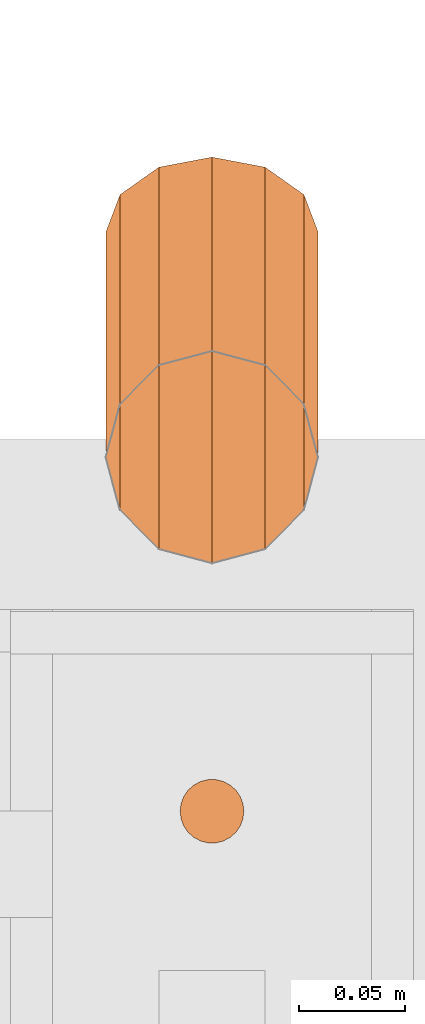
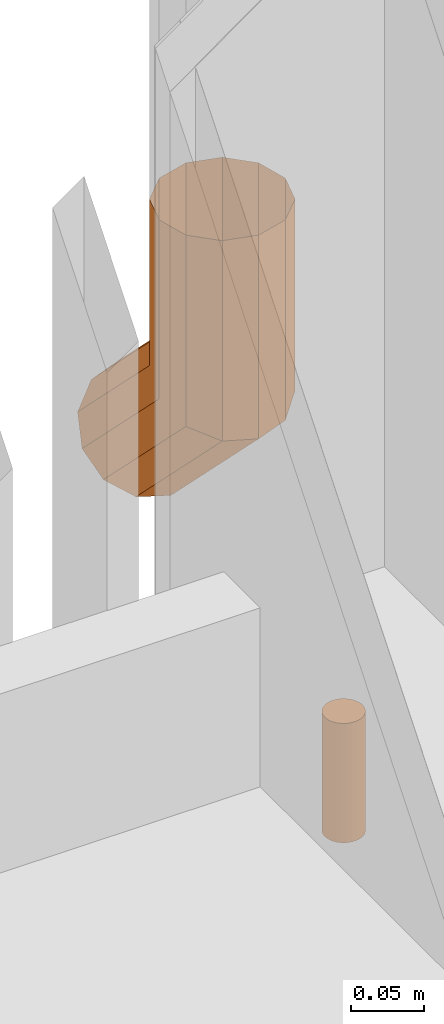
# One storey, part 376 of 418: 2 proxies.
"""IFC2X3 building model written with IfcOpenShell, lengths in millimetres."""

import ifcopenshell
import ifcopenshell.guid

model = None  # the IFC model being written
_history = None  # IfcOwnerHistory: only IFC2X3 demands one
_inside = {}  # id of a spatial element -> (the spatial element, [elements in it])
_under = {}  # id of a project, library or spatial element -> (it, [spatial elements below it])
_declared = {}  # id of a project -> (the project, [libraries it declares])
_typed = {}  # id of a type object -> (the type object, [elements of that type])
_made_of = {}  # id of a material, layer set ... -> (it, [elements and type objects made of it])


def new_model(schema):
    """Start an empty IFC model of exactly this schema.

    Asked for "IFC4X3", IfcOpenShell would pick the latest addendum, in which some entities
    have other attributes; the version numbers below select the first issue.
    IFC2X3 requires an IfcOwnerHistory on every rooted entity: one is made here for all.
    """
    global model, _history
    if schema == "IFC4X3":
        model = ifcopenshell.file(schema_version=(4, 3, 0, 0))
    else:
        model = ifcopenshell.file(schema=schema)
    _inside.clear()
    _under.clear()
    _declared.clear()
    _typed.clear()
    _made_of.clear()
    _history = None
    if model.schema == "IFC2X3":
        org = make("IfcOrganization", Name="unknown")
        user = make(
            "IfcPersonAndOrganization",
            ThePerson=make("IfcPerson", FamilyName="unknown"),
            TheOrganization=org,
        )
        app = make(
            "IfcApplication",
            ApplicationDeveloper=org,
            Version="unknown",
            ApplicationFullName="unknown",
            ApplicationIdentifier="unknown",
        )
        _history = make(
            "IfcOwnerHistory",
            OwningUser=user,
            OwningApplication=app,
            ChangeAction="ADDED",
            CreationDate=0,
        )
    return model


def make(cls, **values):
    """One entity of the class cls with the attributes given. An attribute that is None is left unset."""
    return model.create_entity(
        cls, **{name: value for name, value in values.items() if value is not None}
    )


def entity(cls, *values):
    """Any entity or typed value of the class cls, its attributes in the order of the schema. None: left unset."""
    e = model.create_entity(cls)
    for i, value in enumerate(values):
        if value is not None:
            e[i] = value
    return e


def rooted(cls, **values):
    """An entity with a GlobalId (a new one), such as an element, a storey or a relation."""
    return make(cls, GlobalId=ifcopenshell.guid.new(), OwnerHistory=_history, **values)


def si_unit(unit_type, name, prefix=None):
    """IfcSIUnit, for example si_unit("LENGTHUNIT", "METRE", prefix="MILLI")."""
    return make("IfcSIUnit", UnitType=unit_type, Prefix=prefix, Name=name)


def converted_unit(unit_type, name, factor, base, dimensions=None, offset=None):
    """IfcConversionBasedUnit, such as the inch: factor (a typed value) times the base unit."""
    return make(
        "IfcConversionBasedUnit"
        if offset is None
        else "IfcConversionBasedUnitWithOffset",
        ConversionOffset=offset,
        Dimensions=None
        if dimensions is None
        else entity("IfcDimensionalExponents", *dimensions),
        UnitType=unit_type,
        Name=name,
        ConversionFactor=make(
            "IfcMeasureWithUnit", ValueComponent=factor, UnitComponent=base
        ),
    )


def derived_unit(unit_type, elements):
    """IfcDerivedUnit: a product of units, each with its exponent."""
    return make(
        "IfcDerivedUnit",
        Elements=[
            make("IfcDerivedUnitElement", Unit=unit, Exponent=power)
            for unit, power in elements
        ],
        UnitType=unit_type,
    )


def money_unit(currency):
    """IfcMonetaryUnit."""
    return make("IfcMonetaryUnit", Currency=currency)


def assignment(units):
    """IfcUnitAssignment: the units of a project."""
    return None if units is None else make("IfcUnitAssignment", Units=units)


def point(xyz):
    """IfcCartesianPoint."""
    return None if xyz is None else make("IfcCartesianPoint", Coordinates=xyz)


def direction(xyz):
    """IfcDirection."""
    return None if xyz is None else make("IfcDirection", DirectionRatios=xyz)


def frame(location, z_axis=None, x_axis=None):
    """IfcAxis2Placement3D, a coordinate frame: its origin and axes. An axis left out is left unset."""
    return make(
        "IfcAxis2Placement3D",
        Location=point(location),
        Axis=direction(z_axis),
        RefDirection=direction(x_axis),
    )


def frame_2d(location, x_axis=None):
    """IfcAxis2Placement2D, a coordinate frame in the plane: its origin and x axis."""
    return make(
        "IfcAxis2Placement2D", Location=point(location), RefDirection=direction(x_axis)
    )


def origin_with_axes():
    """The frame at (0, 0, 0) with the z axis (0, 0, 1) and the x axis (1, 0, 0) written out."""
    return frame((0.0, 0.0, 0.0), z_axis=(0.0, 0.0, 1.0), x_axis=(1.0, 0.0, 0.0))


def origin_2d_with_axis():
    """The frame at (0, 0) in the plane with the x axis (1, 0) written out."""
    return frame_2d((0.0, 0.0), x_axis=(1.0, 0.0))


def place(relative_to, where):
    """IfcLocalPlacement: puts the frame where relative to a parent placement (None: the world)."""
    return make(
        "IfcLocalPlacement", PlacementRelTo=relative_to, RelativePlacement=where
    )


def context(
    kind, dimensions, precision=None, world=None, true_north=None, identifier=None
):
    """IfcGeometricRepresentationContext, for example the 3D "Model" context."""
    return make(
        "IfcGeometricRepresentationContext",
        ContextIdentifier=identifier,
        ContextType=kind,
        CoordinateSpaceDimension=dimensions,
        Precision=precision,
        WorldCoordinateSystem=world,
        TrueNorth=true_north,
    )


def subcontext(parent, identifier, kind, view, scale=None):
    """IfcGeometricRepresentationSubContext, for example "Body" below "Model"."""
    return make(
        "IfcGeometricRepresentationSubContext",
        ContextIdentifier=identifier,
        ContextType=kind,
        ParentContext=parent,
        TargetScale=scale,
        TargetView=view,
    )


def project(units=None, contexts=None):
    """IfcProject with its units and contexts."""
    return rooted(
        "IfcProject",
        Name="project",
        RepresentationContexts=contexts,
        UnitsInContext=assignment(units),
    )


def spatial(cls, under=None, at=None, **own):
    """A site, building, storey or space (cls), placed at a placement, below another one or the project."""
    s = rooted(cls, ObjectPlacement=at, **own)
    if under is not None:
        _under.setdefault(under.id(), (under, []))[1].append(s)
    return s


def profile(cls, at=None, kind="AREA", **sizes):
    """A parametric profile (cls). Its sizes go by their IFC names, for example OverallWidth=200.0."""
    return make(cls, ProfileType=kind, Position=at, **sizes)


def circle(**sizes):
    """IfcCircleProfileDef."""
    return profile("IfcCircleProfileDef", **sizes)


def extrude(swept, where, along, depth):
    """IfcExtrudedAreaSolid: the profile swept, set in the frame where, extruded along a direction by depth."""
    return make(
        "IfcExtrudedAreaSolid",
        SweptArea=swept,
        Position=where,
        ExtrudedDirection=direction(along),
        Depth=depth,
    )


def faces_of(points, faces, orient=None, outer=None):
    """IfcFace entities. A face is a list of loops; a loop is a list of indices into points, from 0.

    orient and outer hold one flag for each loop. By default every Orientation is true, the
    first loop of a face is its IfcFaceOuterBound and the others are IfcFaceBound.
    """
    made = []
    for i, loops in enumerate(faces):
        bounds = []
        for j, loop in enumerate(loops):
            is_outer = j == 0 if outer is None else outer[i][j]
            bounds.append(
                make(
                    "IfcFaceOuterBound" if is_outer else "IfcFaceBound",
                    Bound=make("IfcPolyLoop", Polygon=[points[k] for k in loop]),
                    Orientation=True if orient is None else orient[i][j],
                )
            )
        made.append(make("IfcFace", Bounds=bounds))
    return made


def open_shell(faces, orient=None, outer=None):
    """The faces of one IfcOpenShell. surface_model builds it on its shared points."""
    return ("IfcOpenShell", faces, orient, outer)


def surface_model(cls, points, shells):
    """IfcFaceBasedSurfaceModel or IfcShellBasedSurfaceModel (cls): surfaces that need not close."""
    shared = [point(p) for p in points]
    made = [make(c, CfsFaces=faces_of(shared, fs, o, b)) for c, fs, o, b in shells]
    if cls == "IfcFaceBasedSurfaceModel":
        return make(cls, FbsmFaces=made)
    return make(cls, SbsmBoundary=made)


def shape(context_of_items, identifier, shape_type, items):
    """IfcShapeRepresentation: the items that make up one representation, for example the "Body"."""
    return make(
        "IfcShapeRepresentation",
        ContextOfItems=context_of_items,
        RepresentationIdentifier=identifier,
        RepresentationType=shape_type,
        Items=items,
    )


def source(mapping_origin, context_of_items, identifier, shape_type, items):
    """IfcRepresentationMap: a shape defined once, which mapped items show again and again."""
    return make(
        "IfcRepresentationMap",
        MappingOrigin=mapping_origin,
        MappedRepresentation=shape(context_of_items, identifier, shape_type, items),
    )


def transform(
    local_origin,
    x_axis=None,
    y_axis=None,
    z_axis=None,
    scale=None,
    scale2=None,
    scale3=None,
    uniform=True,
):
    """IfcCartesianTransformationOperator3D, or its non-uniform kind. x_axis, y_axis, z_axis: its Axis1, 2, 3."""
    if uniform:
        return make(
            "IfcCartesianTransformationOperator3D",
            Axis1=direction(x_axis),
            Axis2=direction(y_axis),
            LocalOrigin=point(local_origin),
            Scale=scale,
            Axis3=direction(z_axis),
        )
    return make(
        "IfcCartesianTransformationOperator3DnonUniform",
        Axis1=direction(x_axis),
        Axis2=direction(y_axis),
        LocalOrigin=point(local_origin),
        Scale=scale,
        Axis3=direction(z_axis),
        Scale2=scale2,
        Scale3=scale3,
    )


def mapped(mapping_source, mapping_target):
    """IfcMappedItem: shows the shape of a source again, moved by a transform."""
    return make(
        "IfcMappedItem", MappingSource=mapping_source, MappingTarget=mapping_target
    )


def material(Name=None, Category=None):
    """IfcMaterial."""
    return make("IfcMaterial", Name=Name, Category=Category)


def made_of(thing, what):
    """Note that an element or type object is made of a material, layer set ...; save() writes the relation."""
    if what is not None:
        _made_of.setdefault(what.id(), (what, []))[1].append(thing)
    return thing


def type_object(cls, material=None, **own):
    """A type object (cls), such as IfcWallType, which elements share."""
    return made_of(rooted(cls, **own), material)


def element(
    cls,
    number,
    at=None,
    inside=None,
    cuts=None,
    type_object=None,
    material=None,
    context=None,
    identifier="Body",
    shape_type=None,
    held_by="IfcProductDefinitionShape",
    body=None,
    shapes=None,
    **own,
):
    """One element of the class cls, such as IfcWall. Its Tag is "e" and its number.

    at: its placement. inside: the storey or other place that contains it. cuts: it is an
    opening in that element (IfcRelVoidsElement). A single representation is given by context,
    identifier, shape_type and body (its items); several are given by shapes. held_by: the class
    of the entity that holds the representations. save() writes the other relations.
    """
    e = rooted(cls, Tag="e%d" % number, ObjectPlacement=at, **own)
    if body is not None:
        shapes = [shape(context, identifier, shape_type, body)]
    if shapes is not None:
        e.Representation = make(held_by, Representations=shapes)
    if inside is not None:
        _inside.setdefault(inside.id(), (inside, []))[1].append(e)
    if cuts is not None:
        rooted(
            "IfcRelVoidsElement", RelatingBuildingElement=cuts, RelatedOpeningElement=e
        )
    if type_object is not None:
        _typed.setdefault(type_object.id(), (type_object, []))[1].append(e)
    return made_of(e, material)


def aggregate(whole, parts):
    """IfcRelAggregates: a whole, such as a stair, and the parts it consists of."""
    return rooted("IfcRelAggregates", RelatingObject=whole, RelatedObjects=parts)


def save(model, path):
    """Write the relations noted so far, then the file.

    IfcRelAggregates (storeys below a building ...), IfcRelContainedInSpatialStructure (elements
    in a storey), IfcRelDefinesByType, IfcRelAssociatesMaterial and IfcRelDeclares: one each for
    every whole, place, type object, material and project.
    """
    for whole, parts in _under.values():
        aggregate(whole, parts)
    for where, things in _inside.values():
        rooted(
            "IfcRelContainedInSpatialStructure",
            RelatedElements=things,
            RelatingStructure=where,
        )
    for kind, things in _typed.values():
        rooted("IfcRelDefinesByType", RelatedObjects=things, RelatingType=kind)
    for what, things in _made_of.values():
        rooted("IfcRelAssociatesMaterial", RelatedObjects=things, RelatingMaterial=what)
    for by, libraries in _declared.values():
        rooted("IfcRelDeclares", RelatingContext=by, RelatedDefinitions=libraries)
    model.write(path)


model = new_model("IFC2X3")

# Units and contexts
model_context = context("Model", 3, precision=0.01, world=origin_with_axes(), true_north=direction((0.0, 1.0)))
body_context = subcontext(model_context, "Body", "Model", "MODEL_VIEW")
ifc_project = project(units=[si_unit("LENGTHUNIT", "METRE", prefix="MILLI"), si_unit("AREAUNIT", "SQUARE_METRE"), si_unit("VOLUMEUNIT", "CUBIC_METRE"), converted_unit("PLANEANGLEUNIT", "DEGREE", entity("IfcPlaneAngleMeasure", 0.0174532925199), si_unit("PLANEANGLEUNIT", "RADIAN"), dimensions=[0, 0, 0, 0, 0, 0, 0]), si_unit("SOLIDANGLEUNIT", "STERADIAN"), money_unit("EUR"), converted_unit("TIMEUNIT", "Year", entity("IfcTimeMeasure", 31556926.0), si_unit("TIMEUNIT", "SECOND"), dimensions=[0, 0, 1, 0, 0, 0, 0]), si_unit("MASSUNIT", "GRAM", prefix="KILO"), si_unit("THERMODYNAMICTEMPERATUREUNIT", "DEGREE_CELSIUS"), si_unit("LUMINOUSINTENSITYUNIT", "LUMEN"), si_unit("ENERGYUNIT", "JOULE", prefix="MEGA"), derived_unit("THERMALCONDUCTANCEUNIT", [(si_unit("POWERUNIT", "WATT"), 1), (si_unit("LENGTHUNIT", "METRE"), -1), (si_unit("THERMODYNAMICTEMPERATUREUNIT", "KELVIN"), -1)]), derived_unit("SPECIFICHEATCAPACITYUNIT", [(si_unit("ENERGYUNIT", "JOULE"), 1), (si_unit("MASSUNIT", "GRAM", prefix="KILO"), -1), (si_unit("THERMODYNAMICTEMPERATUREUNIT", "KELVIN"), -1)]), derived_unit("MASSDENSITYUNIT", [(si_unit("MASSUNIT", "GRAM", prefix="KILO"), 1), (si_unit("VOLUMEUNIT", "CUBIC_METRE"), -1)])], contexts=[model_context])

# Site, building, storey
site_placement = place(None, origin_with_axes())
site = spatial("IfcSite", under=ifc_project, at=site_placement, Name="Paldiski mnt 245/1, Tallinn, Harjumaa", CompositionType="COMPLEX")
building_placement = place(site_placement, origin_with_axes())
building = spatial("IfcBuilding", under=site, at=building_placement, Name="RKAS Hoone üldnimetus (kasutust iseloomustav) -> IFC Project Manager -> SOLIBRI", CompositionType="ELEMENT")
storey_placement = place(building_placement, origin_with_axes())
storey = spatial("IfcBuildingStorey", under=building, at=storey_placement, Name="Esimene korrus", CompositionType="ELEMENT", Elevation=0.0)

# Proxies
building_element_proxy_type_1 = type_object("IfcBuildingElementProxyType", Name="Downspout Elbow 23", PredefinedType="NOTDEFINED")
shared_shape = source(origin_with_axes(), body_context, "Body", "SurfaceModel", [
    surface_model("IfcShellBasedSurfaceModel", [(-50.0, 0.0, 291.35533906), (-43.3012701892, 25.0, 291.35533906), (-43.3012701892, 25.0, 131.0), (-50.0, 0.0, 141.35533906), (-25.0, 43.3012701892, 291.35533906), (-25.0, 43.3012701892, 123.419365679), (-43.3012701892, -88.3223304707, 17.6776695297), (-50.0, -106.0, 35.3553390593), (-43.3012701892, -25.0, 291.35533906), (-43.3012701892, -25.0, 151.710678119), (0.0, 50.0, 291.35533906), (0.0, 50.0, 120.644660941), (-25.0, -75.3813782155, 4.73671727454), (-43.3012701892, -123.67766953, 53.033008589), (-25.0, -43.3012701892, 291.35533906), (-25.0, -43.3012701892, 159.29131244), (25.0, 43.3012701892, 291.35533906), (25.0, 43.3012701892, 123.419365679), (0.0, -70.644660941, 0.0), (-25.0, -136.618621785, 65.9739608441), (0.0, -50.0, 291.35533906), (0.0, -50.0, 162.066017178), (43.3012701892, 25.0, 291.35533906), (43.3012701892, 25.0, 131.0), (25.0, -75.3813782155, 4.73671727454), (0.0, -141.35533906, 70.7106781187), (25.0, -43.3012701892, 291.35533906), (25.0, -43.3012701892, 159.29131244), (50.0, 0.0, 291.35533906), (50.0, 0.0, 141.35533906), (43.3012701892, -88.3223304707, 17.6776695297), (25.0, -136.618621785, 65.9739608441), (43.3012701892, -25.0, 291.35533906), (43.3012701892, -25.0, 151.710678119), (50.0, -106.0, 35.3553390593), (43.3012701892, -123.67766953, 53.033008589)], [open_shell([[[0, 1, 2, 3]], [[1, 4, 5, 2]], [[3, 2, 6, 7]], [[8, 0, 3, 9]], [[4, 10, 11, 5]], [[2, 5, 12, 6]], [[9, 3, 7, 13]], [[14, 8, 9, 15]], [[10, 16, 17, 11]], [[5, 11, 18, 12]], [[15, 9, 13, 19]], [[20, 14, 15, 21]], [[16, 22, 23, 17]], [[11, 17, 24, 18]], [[21, 15, 19, 25]], [[26, 20, 21, 27]], [[22, 28, 29, 23]], [[17, 23, 30, 24]], [[27, 21, 25, 31]], [[32, 26, 27, 33]], [[28, 32, 33, 29]], [[23, 29, 34, 30]], [[33, 27, 31, 35]], [[29, 33, 35, 34]]])]),
])
proxy_1_placement = place(storey_placement, frame((-7224.27180125, 14111.438141, -923.255696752), z_axis=(0.0, 0.0, 1.0), x_axis=(-1.0, 0.0, 0.0)))
element("IfcBuildingElementProxy", 1, at=proxy_1_placement, inside=storey, type_object=building_element_proxy_type_1, Name="Vihmaveetoru", context=body_context, shape_type="MappedRepresentation", body=[
    mapped(shared_shape, transform((0.0, 0.0, 0.0))),
])
ifc_material = material(Name="ET-03_Raud")
building_element_proxy_type_2 = type_object("IfcBuildingElementProxyType", Name="ET-03_Raud D30", PredefinedType="NOTDEFINED")
proxy_2_placement = place(storey_placement, frame((-7224.27180125, 13944.7949578, -1060.0), z_axis=(0.0, 0.0, 1.0), x_axis=(-1.0, 0.0, 0.0)))
element("IfcBuildingElementProxy", 2, at=proxy_2_placement, inside=storey, type_object=building_element_proxy_type_2, material=ifc_material, Name="Terasking", context=body_context, shape_type="SweptSolid", body=[
    extrude(circle(Radius=15.0, at=origin_2d_with_axis()), origin_with_axes(), (0.0, 0.0, 1.0), 100.0),
])

save(model, "model.ifc")
